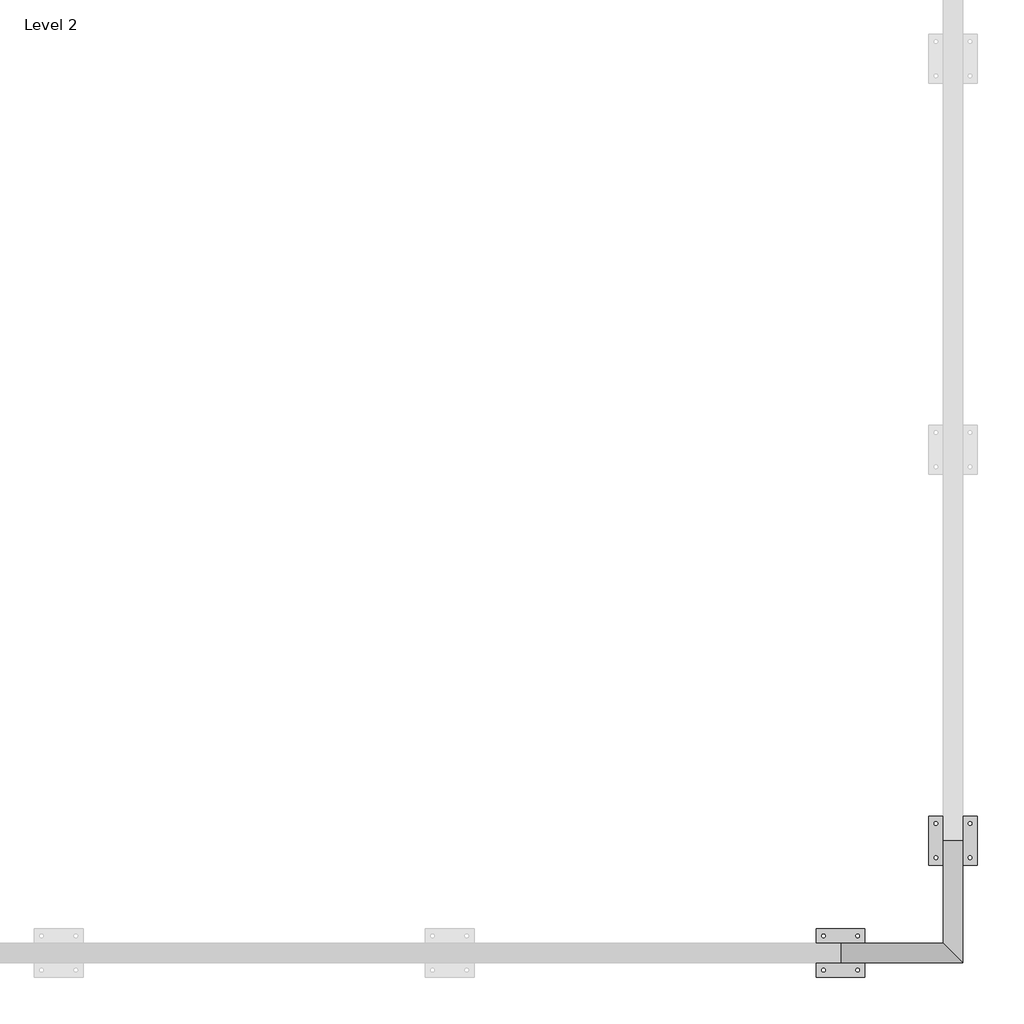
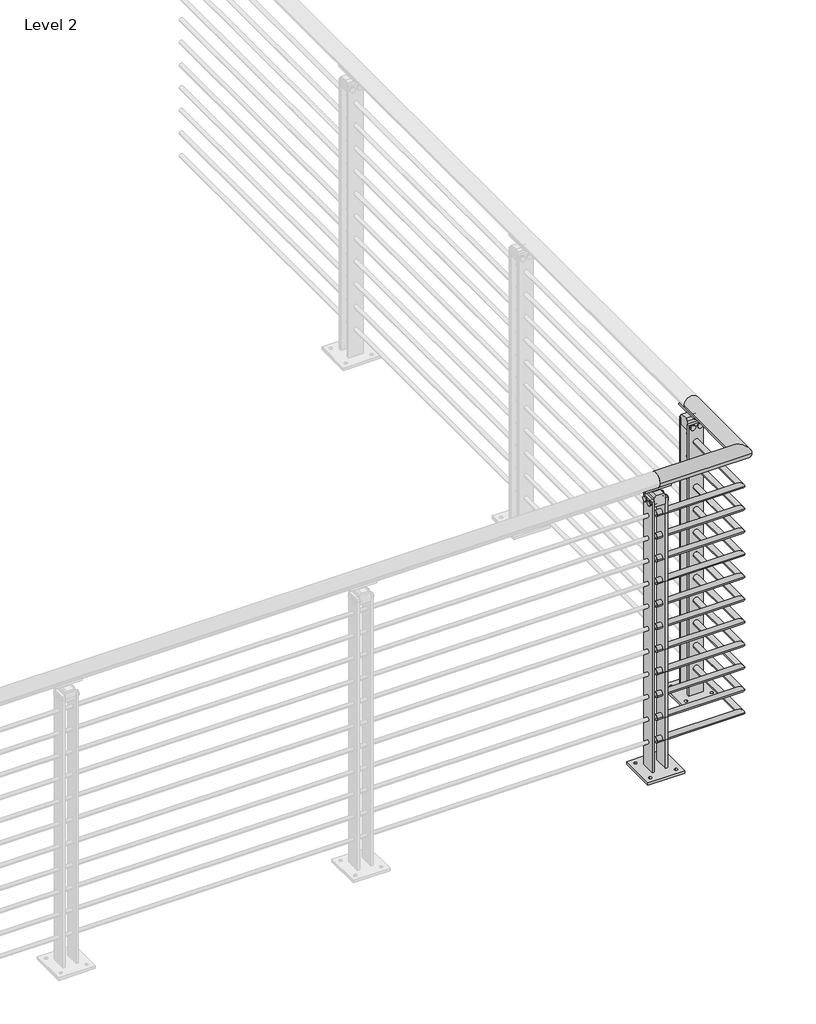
# One storey, part 11 of 31: 1 railing.
"""IFC4 building model written with IfcOpenShell, lengths in millimetres."""

from ifc_helpers import new_model, si_unit, point, frame, frame_2d, origin, place, context, project, spatial, polyline, circle_curve, ellipse_curve, trimmed, segment, composite_curve, outline, extrude, element, save
from ifc_brep_helpers import plane_surface, cylinder_surface, revolved_surface, advanced_brep

model = new_model("IFC4")

# Units and contexts
model_context = context("Model", 3, world=origin())
ifc_project = project(units=[si_unit("LENGTHUNIT", "METRE", prefix="MILLI")], contexts=[model_context])

# Site, building, storey
site = spatial("IfcSite", under=ifc_project)
building = spatial("IfcBuilding", under=site)
storey = spatial("IfcBuildingStorey", under=building, Name="Level 2", Elevation=3048.0)

# Railing
placement = place(None, origin())
element("IfcRailing", 1, ObjectType="VIVA-BLADE-Multiline-Floor Mount-Corner", at=placement, inside=storey, context=model_context, shape_type="SolidModel", body=[
    advanced_brep(
    [(20523.0072927, -69960.9426165, 4102.1), (20523.0072927, -69910.1426165, 4102.1), (20840.5072927, -69960.9426165, 4102.1), (20789.7072927, -69910.1426165, 4102.1), (20840.5072927, -69643.4426165, 4102.1), (20789.7072927, -69643.4426165, 4102.1)],
    [
        (0, 1, circle_curve(frame((20523.0072927, -69935.5426165, 4102.1), z_axis=(-1.0, 0.0, 0.0), x_axis=(0.0, 1.0, 0.0)), 25.4)),
        (1, 0, circle_curve(frame((20523.0072927, -69935.5426165, 4102.1), z_axis=(-1.0, 0.0, 0.0), x_axis=(0.0, 1.0, 0.0)), 25.4)),
        (0, 2),
        (2, 3, ellipse_curve(frame((20815.1072927, -69935.5426165, 4102.1), z_axis=(-0.7071067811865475, -0.7071067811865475, 0.0), x_axis=(-0.7071067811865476, 0.7071067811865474, 0.0)), 35.9210245, 25.4)),
        (3, 1),
        (3, 2, ellipse_curve(frame((20815.1072927, -69935.5426165, 4102.1), z_axis=(-0.7071067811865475, -0.7071067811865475, 0.0), x_axis=(-0.7071067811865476, 0.7071067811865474, 0.0)), 35.9210245, 25.4)),
        (4, 5, circle_curve(frame((20815.1072927, -69643.4426165, 4102.1), z_axis=(0.0, 1.0, 0.0), x_axis=(-1.0, 0.0, 0.0)), 25.4)),
        (5, 4, circle_curve(frame((20815.1072927, -69643.4426165, 4102.1), z_axis=(0.0, 1.0, 0.0), x_axis=(-1.0, 0.0, 0.0)), 25.4)),
        (2, 4),
        (5, 3),
    ],
    [
        plane_surface(frame((20523.0072927, -69935.5426165, 4127.5), z_axis=(-1.0, 0.0, 0.0), x_axis=(0.0, 1.0, 0.0))),
        cylinder_surface(frame((20523.0072927, -69935.5426165, 4102.1), z_axis=(-1.0, 0.0, 0.0), x_axis=(0.0, 1.0, 0.0)), 25.4),
        plane_surface(frame((20815.1072927, -69643.4426165, 4127.5), z_axis=(0.0, 1.0, 0.0), x_axis=(0.0, 0.0, 1.0))),
        cylinder_surface(frame((20815.1072927, -69935.5426165, 4102.1), z_axis=(0.0, -1.0, 0.0), x_axis=(-1.0, 0.0, 0.0)), 25.4),
    ],
    [
        (0, [[1, 2]]),
        (1, [[-1, 3, 4, 5]]),
        (1, [[-2, -5, 6, -3]]),
        (2, [[7, 8]]),
        (3, [[-4, 9, -8, 10]]),
        (3, [[-6, -10, -7, -9]]),
    ],
),
    advanced_brep(
    [(20523.0072927, -69926.0176165, 3978.275), (20523.0072927, -69945.0676165, 3978.275), (20805.5822927, -69926.0176165, 3978.275), (20824.6322927, -69945.0676165, 3978.275), (20805.5822927, -69643.4426165, 3978.275), (20824.6322927, -69643.4426165, 3978.275)],
    [
        (0, 1, circle_curve(frame((20523.0072927, -69935.5426165, 3978.275), z_axis=(-1.0, 0.0, 0.0), x_axis=(0.0, -1.0, 0.0)), 9.525)),
        (1, 0, circle_curve(frame((20523.0072927, -69935.5426165, 3978.275), z_axis=(-1.0, 0.0, 0.0), x_axis=(0.0, -1.0, 0.0)), 9.525)),
        (0, 2),
        (2, 3, ellipse_curve(frame((20815.1072927, -69935.5426165, 3978.275), z_axis=(-0.7071067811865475, -0.7071067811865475, 0.0), x_axis=(-0.7071067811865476, 0.7071067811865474, 0.0)), 13.4703842, 9.525)),
        (3, 1),
        (3, 2, ellipse_curve(frame((20815.1072927, -69935.5426165, 3978.275), z_axis=(-0.7071067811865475, -0.7071067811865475, 0.0), x_axis=(-0.7071067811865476, 0.7071067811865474, 0.0)), 13.4703842, 9.525)),
        (4, 5, circle_curve(frame((20815.1072927, -69643.4426165, 3978.275), z_axis=(0.0, 1.0, 0.0), x_axis=(1.0, 0.0, 0.0)), 9.525)),
        (5, 4, circle_curve(frame((20815.1072927, -69643.4426165, 3978.275), z_axis=(0.0, 1.0, 0.0), x_axis=(1.0, 0.0, 0.0)), 9.525)),
        (2, 4),
        (5, 3),
    ],
    [
        plane_surface(frame((20523.0072927, -69935.5426165, 3987.8), z_axis=(-1.0, 0.0, 0.0), x_axis=(0.0, 1.0, 0.0))),
        cylinder_surface(frame((20523.0072927, -69935.5426165, 3978.275), z_axis=(-1.0, 0.0, 0.0), x_axis=(0.0, -1.0, 0.0)), 9.525),
        plane_surface(frame((20815.1072927, -69643.4426165, 3987.8), z_axis=(0.0, 1.0, 0.0), x_axis=(0.0, 0.0, 1.0))),
        cylinder_surface(frame((20815.1072927, -69935.5426165, 3978.275), z_axis=(0.0, -1.0, 0.0), x_axis=(1.0, 0.0, 0.0)), 9.525),
    ],
    [
        (0, [[1, 2]]),
        (1, [[-1, 3, 4, 5]]),
        (1, [[-2, -5, 6, -3]]),
        (2, [[7, 8]]),
        (3, [[-4, 9, -8, 10]]),
        (3, [[-6, -10, -7, -9]]),
    ],
),
    advanced_brep(
    [(20523.0072927, -69926.0176165, 3895.725), (20523.0072927, -69945.0676165, 3895.725), (20805.5822927, -69926.0176165, 3895.725), (20824.6322927, -69945.0676165, 3895.725), (20805.5822927, -69643.4426165, 3895.725), (20824.6322927, -69643.4426165, 3895.725)],
    [
        (0, 1, circle_curve(frame((20523.0072927, -69935.5426165, 3895.725), z_axis=(-1.0, 0.0, 0.0), x_axis=(0.0, -1.0, 0.0)), 9.525)),
        (1, 0, circle_curve(frame((20523.0072927, -69935.5426165, 3895.725), z_axis=(-1.0, 0.0, 0.0), x_axis=(0.0, -1.0, 0.0)), 9.525)),
        (0, 2),
        (2, 3, ellipse_curve(frame((20815.1072927, -69935.5426165, 3895.725), z_axis=(-0.7071067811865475, -0.7071067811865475, 0.0), x_axis=(-0.7071067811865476, 0.7071067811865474, 0.0)), 13.4703842, 9.525)),
        (3, 1),
        (3, 2, ellipse_curve(frame((20815.1072927, -69935.5426165, 3895.725), z_axis=(-0.7071067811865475, -0.7071067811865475, 0.0), x_axis=(-0.7071067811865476, 0.7071067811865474, 0.0)), 13.4703842, 9.525)),
        (4, 5, circle_curve(frame((20815.1072927, -69643.4426165, 3895.725), z_axis=(0.0, 1.0, 0.0), x_axis=(1.0, 0.0, 0.0)), 9.525)),
        (5, 4, circle_curve(frame((20815.1072927, -69643.4426165, 3895.725), z_axis=(0.0, 1.0, 0.0), x_axis=(1.0, 0.0, 0.0)), 9.525)),
        (2, 4),
        (5, 3),
    ],
    [
        plane_surface(frame((20523.0072927, -69935.5426165, 3905.25), z_axis=(-1.0, 0.0, 0.0), x_axis=(0.0, 1.0, 0.0))),
        cylinder_surface(frame((20523.0072927, -69935.5426165, 3895.725), z_axis=(-1.0, 0.0, 0.0), x_axis=(0.0, -1.0, 0.0)), 9.525),
        plane_surface(frame((20815.1072927, -69643.4426165, 3905.25), z_axis=(0.0, 1.0, 0.0), x_axis=(0.0, 0.0, 1.0))),
        cylinder_surface(frame((20815.1072927, -69935.5426165, 3895.725), z_axis=(0.0, -1.0, 0.0), x_axis=(1.0, 0.0, 0.0)), 9.525),
    ],
    [
        (0, [[1, 2]]),
        (1, [[-1, 3, 4, 5]]),
        (1, [[-2, -5, 6, -3]]),
        (2, [[7, 8]]),
        (3, [[-4, 9, -8, 10]]),
        (3, [[-6, -10, -7, -9]]),
    ],
),
    advanced_brep(
    [(20523.0072927, -69926.0176165, 3813.175), (20523.0072927, -69945.0676165, 3813.175), (20805.5822927, -69926.0176165, 3813.175), (20824.6322927, -69945.0676165, 3813.175), (20805.5822927, -69643.4426165, 3813.175), (20824.6322927, -69643.4426165, 3813.175)],
    [
        (0, 1, circle_curve(frame((20523.0072927, -69935.5426165, 3813.175), z_axis=(-1.0, 0.0, 0.0), x_axis=(0.0, -1.0, 0.0)), 9.525)),
        (1, 0, circle_curve(frame((20523.0072927, -69935.5426165, 3813.175), z_axis=(-1.0, 0.0, 0.0), x_axis=(0.0, -1.0, 0.0)), 9.525)),
        (0, 2),
        (2, 3, ellipse_curve(frame((20815.1072927, -69935.5426165, 3813.175), z_axis=(-0.7071067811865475, -0.7071067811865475, 0.0), x_axis=(-0.7071067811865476, 0.7071067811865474, 0.0)), 13.4703842, 9.525)),
        (3, 1),
        (3, 2, ellipse_curve(frame((20815.1072927, -69935.5426165, 3813.175), z_axis=(-0.7071067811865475, -0.7071067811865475, 0.0), x_axis=(-0.7071067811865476, 0.7071067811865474, 0.0)), 13.4703842, 9.525)),
        (4, 5, circle_curve(frame((20815.1072927, -69643.4426165, 3813.175), z_axis=(0.0, 1.0, 0.0), x_axis=(1.0, 0.0, 0.0)), 9.525)),
        (5, 4, circle_curve(frame((20815.1072927, -69643.4426165, 3813.175), z_axis=(0.0, 1.0, 0.0), x_axis=(1.0, 0.0, 0.0)), 9.525)),
        (2, 4),
        (5, 3),
    ],
    [
        plane_surface(frame((20523.0072927, -69935.5426165, 3822.7), z_axis=(-1.0, 0.0, 0.0), x_axis=(0.0, 1.0, 0.0))),
        cylinder_surface(frame((20523.0072927, -69935.5426165, 3813.175), z_axis=(-1.0, 0.0, 0.0), x_axis=(0.0, -1.0, 0.0)), 9.525),
        plane_surface(frame((20815.1072927, -69643.4426165, 3822.7), z_axis=(0.0, 1.0, 0.0), x_axis=(0.0, 0.0, 1.0))),
        cylinder_surface(frame((20815.1072927, -69935.5426165, 3813.175), z_axis=(0.0, -1.0, 0.0), x_axis=(1.0, 0.0, 0.0)), 9.525),
    ],
    [
        (0, [[1, 2]]),
        (1, [[-1, 3, 4, 5]]),
        (1, [[-2, -5, 6, -3]]),
        (2, [[7, 8]]),
        (3, [[-4, 9, -8, 10]]),
        (3, [[-6, -10, -7, -9]]),
    ],
),
    advanced_brep(
    [(20523.0072927, -69926.0176165, 3730.625), (20523.0072927, -69945.0676165, 3730.625), (20805.5822927, -69926.0176165, 3730.625), (20824.6322927, -69945.0676165, 3730.625), (20805.5822927, -69643.4426165, 3730.625), (20824.6322927, -69643.4426165, 3730.625)],
    [
        (0, 1, circle_curve(frame((20523.0072927, -69935.5426165, 3730.625), z_axis=(-1.0, 0.0, 0.0), x_axis=(0.0, -1.0, 0.0)), 9.525)),
        (1, 0, circle_curve(frame((20523.0072927, -69935.5426165, 3730.625), z_axis=(-1.0, 0.0, 0.0), x_axis=(0.0, -1.0, 0.0)), 9.525)),
        (0, 2),
        (2, 3, ellipse_curve(frame((20815.1072927, -69935.5426165, 3730.625), z_axis=(-0.7071067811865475, -0.7071067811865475, 0.0), x_axis=(-0.7071067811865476, 0.7071067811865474, 0.0)), 13.4703842, 9.525)),
        (3, 1),
        (3, 2, ellipse_curve(frame((20815.1072927, -69935.5426165, 3730.625), z_axis=(-0.7071067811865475, -0.7071067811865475, 0.0), x_axis=(-0.7071067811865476, 0.7071067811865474, 0.0)), 13.4703842, 9.525)),
        (4, 5, circle_curve(frame((20815.1072927, -69643.4426165, 3730.625), z_axis=(0.0, 1.0, 0.0), x_axis=(1.0, 0.0, 0.0)), 9.525)),
        (5, 4, circle_curve(frame((20815.1072927, -69643.4426165, 3730.625), z_axis=(0.0, 1.0, 0.0), x_axis=(1.0, 0.0, 0.0)), 9.525)),
        (2, 4),
        (5, 3),
    ],
    [
        plane_surface(frame((20523.0072927, -69935.5426165, 3740.15), z_axis=(-1.0, 0.0, 0.0), x_axis=(0.0, 1.0, 0.0))),
        cylinder_surface(frame((20523.0072927, -69935.5426165, 3730.625), z_axis=(-1.0, 0.0, 0.0), x_axis=(0.0, -1.0, 0.0)), 9.525),
        plane_surface(frame((20815.1072927, -69643.4426165, 3740.15), z_axis=(0.0, 1.0, 0.0), x_axis=(0.0, 0.0, 1.0))),
        cylinder_surface(frame((20815.1072927, -69935.5426165, 3730.625), z_axis=(0.0, -1.0, 0.0), x_axis=(1.0, 0.0, 0.0)), 9.525),
    ],
    [
        (0, [[1, 2]]),
        (1, [[-1, 3, 4, 5]]),
        (1, [[-2, -5, 6, -3]]),
        (2, [[7, 8]]),
        (3, [[-4, 9, -8, 10]]),
        (3, [[-6, -10, -7, -9]]),
    ],
),
    advanced_brep(
    [(20523.0072927, -69926.0176165, 3648.075), (20523.0072927, -69945.0676165, 3648.075), (20805.5822927, -69926.0176165, 3648.075), (20824.6322927, -69945.0676165, 3648.075), (20805.5822927, -69643.4426165, 3648.075), (20824.6322927, -69643.4426165, 3648.075)],
    [
        (0, 1, circle_curve(frame((20523.0072927, -69935.5426165, 3648.075), z_axis=(-1.0, 0.0, 0.0), x_axis=(0.0, -1.0, 0.0)), 9.525)),
        (1, 0, circle_curve(frame((20523.0072927, -69935.5426165, 3648.075), z_axis=(-1.0, 0.0, 0.0), x_axis=(0.0, -1.0, 0.0)), 9.525)),
        (0, 2),
        (2, 3, ellipse_curve(frame((20815.1072927, -69935.5426165, 3648.075), z_axis=(-0.7071067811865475, -0.7071067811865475, 0.0), x_axis=(-0.7071067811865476, 0.7071067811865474, 0.0)), 13.4703842, 9.525)),
        (3, 1),
        (3, 2, ellipse_curve(frame((20815.1072927, -69935.5426165, 3648.075), z_axis=(-0.7071067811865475, -0.7071067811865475, 0.0), x_axis=(-0.7071067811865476, 0.7071067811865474, 0.0)), 13.4703842, 9.525)),
        (4, 5, circle_curve(frame((20815.1072927, -69643.4426165, 3648.075), z_axis=(0.0, 1.0, 0.0), x_axis=(1.0, 0.0, 0.0)), 9.525)),
        (5, 4, circle_curve(frame((20815.1072927, -69643.4426165, 3648.075), z_axis=(0.0, 1.0, 0.0), x_axis=(1.0, 0.0, 0.0)), 9.525)),
        (2, 4),
        (5, 3),
    ],
    [
        plane_surface(frame((20523.0072927, -69935.5426165, 3657.6), z_axis=(-1.0, 0.0, 0.0), x_axis=(0.0, 1.0, 0.0))),
        cylinder_surface(frame((20523.0072927, -69935.5426165, 3648.075), z_axis=(-1.0, 0.0, 0.0), x_axis=(0.0, -1.0, 0.0)), 9.525),
        plane_surface(frame((20815.1072927, -69643.4426165, 3657.6), z_axis=(0.0, 1.0, 0.0), x_axis=(0.0, 0.0, 1.0))),
        cylinder_surface(frame((20815.1072927, -69935.5426165, 3648.075), z_axis=(0.0, -1.0, 0.0), x_axis=(1.0, 0.0, 0.0)), 9.525),
    ],
    [
        (0, [[1, 2]]),
        (1, [[-1, 3, 4, 5]]),
        (1, [[-2, -5, 6, -3]]),
        (2, [[7, 8]]),
        (3, [[-4, 9, -8, 10]]),
        (3, [[-6, -10, -7, -9]]),
    ],
),
    advanced_brep(
    [(20523.0072927, -69926.0176165, 3565.525), (20523.0072927, -69945.0676165, 3565.525), (20805.5822927, -69926.0176165, 3565.525), (20824.6322927, -69945.0676165, 3565.525), (20805.5822927, -69643.4426165, 3565.525), (20824.6322927, -69643.4426165, 3565.525)],
    [
        (0, 1, circle_curve(frame((20523.0072927, -69935.5426165, 3565.525), z_axis=(-1.0, 0.0, 0.0), x_axis=(0.0, -1.0, 0.0)), 9.525)),
        (1, 0, circle_curve(frame((20523.0072927, -69935.5426165, 3565.525), z_axis=(-1.0, 0.0, 0.0), x_axis=(0.0, -1.0, 0.0)), 9.525)),
        (0, 2),
        (2, 3, ellipse_curve(frame((20815.1072927, -69935.5426165, 3565.525), z_axis=(-0.7071067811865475, -0.7071067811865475, 0.0), x_axis=(-0.7071067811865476, 0.7071067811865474, 0.0)), 13.4703842, 9.525)),
        (3, 1),
        (3, 2, ellipse_curve(frame((20815.1072927, -69935.5426165, 3565.525), z_axis=(-0.7071067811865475, -0.7071067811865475, 0.0), x_axis=(-0.7071067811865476, 0.7071067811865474, 0.0)), 13.4703842, 9.525)),
        (4, 5, circle_curve(frame((20815.1072927, -69643.4426165, 3565.525), z_axis=(0.0, 1.0, 0.0), x_axis=(1.0, 0.0, 0.0)), 9.525)),
        (5, 4, circle_curve(frame((20815.1072927, -69643.4426165, 3565.525), z_axis=(0.0, 1.0, 0.0), x_axis=(1.0, 0.0, 0.0)), 9.525)),
        (2, 4),
        (5, 3),
    ],
    [
        plane_surface(frame((20523.0072927, -69935.5426165, 3575.05), z_axis=(-1.0, 0.0, 0.0), x_axis=(0.0, 1.0, 0.0))),
        cylinder_surface(frame((20523.0072927, -69935.5426165, 3565.525), z_axis=(-1.0, 0.0, 0.0), x_axis=(0.0, -1.0, 0.0)), 9.525),
        plane_surface(frame((20815.1072927, -69643.4426165, 3575.05), z_axis=(0.0, 1.0, 0.0), x_axis=(0.0, 0.0, 1.0))),
        cylinder_surface(frame((20815.1072927, -69935.5426165, 3565.525), z_axis=(0.0, -1.0, 0.0), x_axis=(1.0, 0.0, 0.0)), 9.525),
    ],
    [
        (0, [[1, 2]]),
        (1, [[-1, 3, 4, 5]]),
        (1, [[-2, -5, 6, -3]]),
        (2, [[7, 8]]),
        (3, [[-4, 9, -8, 10]]),
        (3, [[-6, -10, -7, -9]]),
    ],
),
    advanced_brep(
    [(20523.0072927, -69926.0176165, 3482.975), (20523.0072927, -69945.0676165, 3482.975), (20805.5822927, -69926.0176165, 3482.975), (20824.6322927, -69945.0676165, 3482.975), (20805.5822927, -69643.4426165, 3482.975), (20824.6322927, -69643.4426165, 3482.975)],
    [
        (0, 1, circle_curve(frame((20523.0072927, -69935.5426165, 3482.975), z_axis=(-1.0, 0.0, 0.0), x_axis=(0.0, -1.0, 0.0)), 9.525)),
        (1, 0, circle_curve(frame((20523.0072927, -69935.5426165, 3482.975), z_axis=(-1.0, 0.0, 0.0), x_axis=(0.0, -1.0, 0.0)), 9.525)),
        (0, 2),
        (2, 3, ellipse_curve(frame((20815.1072927, -69935.5426165, 3482.975), z_axis=(-0.7071067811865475, -0.7071067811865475, 0.0), x_axis=(-0.7071067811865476, 0.7071067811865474, 0.0)), 13.4703842, 9.525)),
        (3, 1),
        (3, 2, ellipse_curve(frame((20815.1072927, -69935.5426165, 3482.975), z_axis=(-0.7071067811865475, -0.7071067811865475, 0.0), x_axis=(-0.7071067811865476, 0.7071067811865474, 0.0)), 13.4703842, 9.525)),
        (4, 5, circle_curve(frame((20815.1072927, -69643.4426165, 3482.975), z_axis=(0.0, 1.0, 0.0), x_axis=(1.0, 0.0, 0.0)), 9.525)),
        (5, 4, circle_curve(frame((20815.1072927, -69643.4426165, 3482.975), z_axis=(0.0, 1.0, 0.0), x_axis=(1.0, 0.0, 0.0)), 9.525)),
        (2, 4),
        (5, 3),
    ],
    [
        plane_surface(frame((20523.0072927, -69935.5426165, 3492.5), z_axis=(-1.0, 0.0, 0.0), x_axis=(0.0, 1.0, 0.0))),
        cylinder_surface(frame((20523.0072927, -69935.5426165, 3482.975), z_axis=(-1.0, 0.0, 0.0), x_axis=(0.0, -1.0, 0.0)), 9.525),
        plane_surface(frame((20815.1072927, -69643.4426165, 3492.5), z_axis=(0.0, 1.0, 0.0), x_axis=(0.0, 0.0, 1.0))),
        cylinder_surface(frame((20815.1072927, -69935.5426165, 3482.975), z_axis=(0.0, -1.0, 0.0), x_axis=(1.0, 0.0, 0.0)), 9.525),
    ],
    [
        (0, [[1, 2]]),
        (1, [[-1, 3, 4, 5]]),
        (1, [[-2, -5, 6, -3]]),
        (2, [[7, 8]]),
        (3, [[-4, 9, -8, 10]]),
        (3, [[-6, -10, -7, -9]]),
    ],
),
    advanced_brep(
    [(20523.0072927, -69926.0176165, 3400.425), (20523.0072927, -69945.0676165, 3400.425), (20805.5822927, -69926.0176165, 3400.425), (20824.6322927, -69945.0676165, 3400.425), (20805.5822927, -69643.4426165, 3400.425), (20824.6322927, -69643.4426165, 3400.425)],
    [
        (0, 1, circle_curve(frame((20523.0072927, -69935.5426165, 3400.425), z_axis=(-1.0, 0.0, 0.0), x_axis=(0.0, -1.0, 0.0)), 9.525)),
        (1, 0, circle_curve(frame((20523.0072927, -69935.5426165, 3400.425), z_axis=(-1.0, 0.0, 0.0), x_axis=(0.0, -1.0, 0.0)), 9.525)),
        (0, 2),
        (2, 3, ellipse_curve(frame((20815.1072927, -69935.5426165, 3400.425), z_axis=(-0.7071067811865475, -0.7071067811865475, 0.0), x_axis=(-0.7071067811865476, 0.7071067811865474, 0.0)), 13.4703842, 9.525)),
        (3, 1),
        (3, 2, ellipse_curve(frame((20815.1072927, -69935.5426165, 3400.425), z_axis=(-0.7071067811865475, -0.7071067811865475, 0.0), x_axis=(-0.7071067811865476, 0.7071067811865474, 0.0)), 13.4703842, 9.525)),
        (4, 5, circle_curve(frame((20815.1072927, -69643.4426165, 3400.425), z_axis=(0.0, 1.0, 0.0), x_axis=(1.0, 0.0, 0.0)), 9.525)),
        (5, 4, circle_curve(frame((20815.1072927, -69643.4426165, 3400.425), z_axis=(0.0, 1.0, 0.0), x_axis=(1.0, 0.0, 0.0)), 9.525)),
        (2, 4),
        (5, 3),
    ],
    [
        plane_surface(frame((20523.0072927, -69935.5426165, 3409.95), z_axis=(-1.0, 0.0, 0.0), x_axis=(0.0, 1.0, 0.0))),
        cylinder_surface(frame((20523.0072927, -69935.5426165, 3400.425), z_axis=(-1.0, 0.0, 0.0), x_axis=(0.0, -1.0, 0.0)), 9.525),
        plane_surface(frame((20815.1072927, -69643.4426165, 3409.95), z_axis=(0.0, 1.0, 0.0), x_axis=(0.0, 0.0, 1.0))),
        cylinder_surface(frame((20815.1072927, -69935.5426165, 3400.425), z_axis=(0.0, -1.0, 0.0), x_axis=(1.0, 0.0, 0.0)), 9.525),
    ],
    [
        (0, [[1, 2]]),
        (1, [[-1, 3, 4, 5]]),
        (1, [[-2, -5, 6, -3]]),
        (2, [[7, 8]]),
        (3, [[-4, 9, -8, 10]]),
        (3, [[-6, -10, -7, -9]]),
    ],
),
    advanced_brep(
    [(20523.0072927, -69926.0176165, 3317.875), (20523.0072927, -69945.0676165, 3317.875), (20805.5822927, -69926.0176165, 3317.875), (20824.6322927, -69945.0676165, 3317.875), (20805.5822927, -69643.4426165, 3317.875), (20824.6322927, -69643.4426165, 3317.875)],
    [
        (0, 1, circle_curve(frame((20523.0072927, -69935.5426165, 3317.875), z_axis=(-1.0, 0.0, 0.0), x_axis=(0.0, -1.0, 0.0)), 9.525)),
        (1, 0, circle_curve(frame((20523.0072927, -69935.5426165, 3317.875), z_axis=(-1.0, 0.0, 0.0), x_axis=(0.0, -1.0, 0.0)), 9.525)),
        (0, 2),
        (2, 3, ellipse_curve(frame((20815.1072927, -69935.5426165, 3317.875), z_axis=(-0.7071067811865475, -0.7071067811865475, 0.0), x_axis=(-0.7071067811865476, 0.7071067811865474, 0.0)), 13.4703842, 9.525)),
        (3, 1),
        (3, 2, ellipse_curve(frame((20815.1072927, -69935.5426165, 3317.875), z_axis=(-0.7071067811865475, -0.7071067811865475, 0.0), x_axis=(-0.7071067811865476, 0.7071067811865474, 0.0)), 13.4703842, 9.525)),
        (4, 5, circle_curve(frame((20815.1072927, -69643.4426165, 3317.875), z_axis=(0.0, 1.0, 0.0), x_axis=(1.0, 0.0, 0.0)), 9.525)),
        (5, 4, circle_curve(frame((20815.1072927, -69643.4426165, 3317.875), z_axis=(0.0, 1.0, 0.0), x_axis=(1.0, 0.0, 0.0)), 9.525)),
        (2, 4),
        (5, 3),
    ],
    [
        plane_surface(frame((20523.0072927, -69935.5426165, 3327.4), z_axis=(-1.0, 0.0, 0.0), x_axis=(0.0, 1.0, 0.0))),
        cylinder_surface(frame((20523.0072927, -69935.5426165, 3317.875), z_axis=(-1.0, 0.0, 0.0), x_axis=(0.0, -1.0, 0.0)), 9.525),
        plane_surface(frame((20815.1072927, -69643.4426165, 3327.4), z_axis=(0.0, 1.0, 0.0), x_axis=(0.0, 0.0, 1.0))),
        cylinder_surface(frame((20815.1072927, -69935.5426165, 3317.875), z_axis=(0.0, -1.0, 0.0), x_axis=(1.0, 0.0, 0.0)), 9.525),
    ],
    [
        (0, [[1, 2]]),
        (1, [[-1, 3, 4, 5]]),
        (1, [[-2, -5, 6, -3]]),
        (2, [[7, 8]]),
        (3, [[-4, 9, -8, 10]]),
        (3, [[-6, -10, -7, -9]]),
    ],
),
    advanced_brep(
    [(20523.0072927, -69926.0176165, 3235.325), (20523.0072927, -69945.0676165, 3235.325), (20805.5822927, -69926.0176165, 3235.325), (20824.6322927, -69945.0676165, 3235.325), (20805.5822927, -69643.4426165, 3235.325), (20824.6322927, -69643.4426165, 3235.325)],
    [
        (0, 1, circle_curve(frame((20523.0072927, -69935.5426165, 3235.325), z_axis=(-1.0, 0.0, 0.0), x_axis=(0.0, -1.0, 0.0)), 9.525)),
        (1, 0, circle_curve(frame((20523.0072927, -69935.5426165, 3235.325), z_axis=(-1.0, 0.0, 0.0), x_axis=(0.0, -1.0, 0.0)), 9.525)),
        (0, 2),
        (2, 3, ellipse_curve(frame((20815.1072927, -69935.5426165, 3235.325), z_axis=(-0.7071067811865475, -0.7071067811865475, 0.0), x_axis=(-0.7071067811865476, 0.7071067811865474, 0.0)), 13.4703842, 9.525)),
        (3, 1),
        (3, 2, ellipse_curve(frame((20815.1072927, -69935.5426165, 3235.325), z_axis=(-0.7071067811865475, -0.7071067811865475, 0.0), x_axis=(-0.7071067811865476, 0.7071067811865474, 0.0)), 13.4703842, 9.525)),
        (4, 5, circle_curve(frame((20815.1072927, -69643.4426165, 3235.325), z_axis=(0.0, 1.0, 0.0), x_axis=(1.0, 0.0, 0.0)), 9.525)),
        (5, 4, circle_curve(frame((20815.1072927, -69643.4426165, 3235.325), z_axis=(0.0, 1.0, 0.0), x_axis=(1.0, 0.0, 0.0)), 9.525)),
        (2, 4),
        (5, 3),
    ],
    [
        plane_surface(frame((20523.0072927, -69935.5426165, 3244.85), z_axis=(-1.0, 0.0, 0.0), x_axis=(0.0, 1.0, 0.0))),
        cylinder_surface(frame((20523.0072927, -69935.5426165, 3235.325), z_axis=(-1.0, 0.0, 0.0), x_axis=(0.0, -1.0, 0.0)), 9.525),
        plane_surface(frame((20815.1072927, -69643.4426165, 3244.85), z_axis=(0.0, 1.0, 0.0), x_axis=(0.0, 0.0, 1.0))),
        cylinder_surface(frame((20815.1072927, -69935.5426165, 3235.325), z_axis=(0.0, -1.0, 0.0), x_axis=(1.0, 0.0, 0.0)), 9.525),
    ],
    [
        (0, [[1, 2]]),
        (1, [[-1, 3, 4, 5]]),
        (1, [[-2, -5, 6, -3]]),
        (2, [[7, 8]]),
        (3, [[-4, 9, -8, 10]]),
        (3, [[-6, -10, -7, -9]]),
    ],
),
    advanced_brep(
    [(20523.0072927, -69926.0176165, 3152.775), (20523.0072927, -69945.0676165, 3152.775), (20805.5822927, -69926.0176165, 3152.775), (20824.6322927, -69945.0676165, 3152.775), (20805.5822927, -69643.4426165, 3152.775), (20824.6322927, -69643.4426165, 3152.775)],
    [
        (0, 1, circle_curve(frame((20523.0072927, -69935.5426165, 3152.775), z_axis=(-1.0, 0.0, 0.0), x_axis=(0.0, -1.0, 0.0)), 9.525)),
        (1, 0, circle_curve(frame((20523.0072927, -69935.5426165, 3152.775), z_axis=(-1.0, 0.0, 0.0), x_axis=(0.0, -1.0, 0.0)), 9.525)),
        (0, 2),
        (2, 3, ellipse_curve(frame((20815.1072927, -69935.5426165, 3152.775), z_axis=(-0.7071067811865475, -0.7071067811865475, 0.0), x_axis=(-0.7071067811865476, 0.7071067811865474, 0.0)), 13.4703842, 9.525)),
        (3, 1),
        (3, 2, ellipse_curve(frame((20815.1072927, -69935.5426165, 3152.775), z_axis=(-0.7071067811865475, -0.7071067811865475, 0.0), x_axis=(-0.7071067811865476, 0.7071067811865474, 0.0)), 13.4703842, 9.525)),
        (4, 5, circle_curve(frame((20815.1072927, -69643.4426165, 3152.775), z_axis=(0.0, 1.0, 0.0), x_axis=(1.0, 0.0, 0.0)), 9.525)),
        (5, 4, circle_curve(frame((20815.1072927, -69643.4426165, 3152.775), z_axis=(0.0, 1.0, 0.0), x_axis=(1.0, 0.0, 0.0)), 9.525)),
        (2, 4),
        (5, 3),
    ],
    [
        plane_surface(frame((20523.0072927, -69935.5426165, 3162.3), z_axis=(-1.0, 0.0, 0.0), x_axis=(0.0, 1.0, 0.0))),
        cylinder_surface(frame((20523.0072927, -69935.5426165, 3152.775), z_axis=(-1.0, 0.0, 0.0), x_axis=(0.0, -1.0, 0.0)), 9.525),
        plane_surface(frame((20815.1072927, -69643.4426165, 3162.3), z_axis=(0.0, 1.0, 0.0), x_axis=(0.0, 0.0, 1.0))),
        cylinder_surface(frame((20815.1072927, -69935.5426165, 3152.775), z_axis=(0.0, -1.0, 0.0), x_axis=(1.0, 0.0, 0.0)), 9.525),
    ],
    [
        (0, [[1, 2]]),
        (1, [[-1, 3, 4, 5]]),
        (1, [[-2, -5, 6, -3]]),
        (2, [[7, 8]]),
        (3, [[-4, 9, -8, 10]]),
        (3, [[-6, -10, -7, -9]]),
    ],
),
    advanced_brep(
    [(20802.3471691, -69598.2052165, 4080.0967655), (20827.2192336, -69598.2052165, 4079.9535285), (20830.0281639, -69598.2052165, 4075.1267745), (20798.5112716, -69598.2052165, 4075.707533), (20802.3471691, -69688.6800165, 4080.0967655), (20798.5112716, -69688.6800165, 4075.707533), (20830.1419573, -69688.6800165, 4075.1893964), (20827.3062057, -69688.6800165, 4080.0018447)],
    [
        (0, 1, circle_curve(frame((20814.9109719, -69598.2052165, 4102.2115898), z_axis=(0.0, -1.0, 0.0), x_axis=(-1.0, 0.0, 0.0)), 25.4345159)),
        (1, 2, circle_curve(frame((20828.5508588, -69598.2052165, 4077.4993599), z_axis=(0.0, 1.0, 0.0), x_axis=(-1.0, 0.0, 0.0)), 2.7949225)),
        (2, 3, circle_curve(frame((20814.7775089, -69598.2052165, 4102.9742164), z_axis=(0.0, 1.0, 0.0), x_axis=(-1.0, 0.0, 0.0)), 31.75)),
        (3, 0, circle_curve(frame((20800.7996114, -69598.2052165, 4077.5784521), z_axis=(0.0, 1.0, 0.0), x_axis=(-1.0, 0.0, 0.0)), 2.9558141)),
        (4, 5, circle_curve(frame((20800.7996114, -69688.6800165, 4077.5784521), z_axis=(0.0, -1.0, 0.0), x_axis=(-1.0, 0.0, 0.0)), 2.9558141)),
        (5, 6, circle_curve(frame((20814.7775089, -69688.6800165, 4102.9742164), z_axis=(0.0, -1.0, 0.0), x_axis=(-1.0, 0.0, 0.0)), 31.75)),
        (6, 7, circle_curve(frame((20828.5508588, -69688.6800165, 4077.4993599), z_axis=(0.0, -1.0, 0.0), x_axis=(-1.0, 0.0, 0.0)), 2.7949225)),
        (7, 4, circle_curve(frame((20814.9109719, -69688.6800165, 4102.2115898), z_axis=(0.0, 1.0, 0.0), x_axis=(-1.0, 0.0, 0.0)), 25.4345159)),
        (0, 4),
        (7, 1),
        (6, 2),
        (5, 3),
    ],
    [
        plane_surface(frame((20789.4764561, -69598.2052165, 4102.2115898), z_axis=(0.0, 1.0, 0.0), x_axis=(0.0, 0.0, -1.0))),
        plane_surface(frame((20789.4764561, -69688.6800165, 4102.2115898), z_axis=(0.0, -1.0, 0.0), x_axis=(0.0, 0.0, 1.0))),
        revolved_surface(polyline([(20789.476456, -69688.6800165, 4102.2115898), (20789.476456, -69598.2052165, 4102.2115898)]), (20814.9109719, -69688.6800165, 4102.2115898), (0.0, -1.0, 0.0)),
        cylinder_surface(frame((20828.5508588, -69688.6800165, 4077.4993599), z_axis=(0.0, 1.0, 0.0), x_axis=(-1.0, 0.0, 0.0)), 2.7949225),
        cylinder_surface(frame((20814.7775089, -69688.6800165, 4102.9742164), z_axis=(0.0, 1.0, 0.0), x_axis=(-1.0, 0.0, 0.0)), 31.75),
        cylinder_surface(frame((20800.7996114, -69688.6800165, 4077.5784521), z_axis=(0.0, 1.0, 0.0), x_axis=(-1.0, 0.0, 0.0)), 2.9558141),
    ],
    [
        (0, [[1, 2, 3, 4]]),
        (1, [[5, 6, 7, 8]]),
        (2, [[-1, 9, -8, 10]]),
        (3, [[-2, -10, -7, 11]]),
        (4, [[-3, -11, -6, 12]]),
        (5, [[-4, -12, -5, -9]]),
    ],
),
    extrude(outline(composite_curve([segment(polyline([(-69630.7426165, 4062.4125), (-69656.1426165, 4062.4125)]), True, "CONTINUOUS"), segment(trimmed(circle_curve(frame_2d((-69670.5105314, 4062.4125)), 14.3679149), [point((-69656.1426165, 4062.4125))], [point((-69670.5105314, 4076.7804149))], True, "CARTESIAN"), True, "CONTINUOUS"), segment(polyline([(-69670.5105314, 4076.7804149), (-69616.3747017, 4076.7804149)]), True, "CONTINUOUS"), segment(trimmed(circle_curve(frame_2d((-69616.3747017, 4062.4125)), 14.3679149), [point((-69616.3747017, 4076.7804149))], [point((-69630.7426165, 4062.4125))], True, "CARTESIAN"), True, "CONTINUOUS")], self_intersect=False)), frame((20812.5672927, 0.0, 0.0), z_axis=(1.0, 0.0, 0.0), x_axis=(0.0, 1.0, 0.0)), (0.0, 0.0, 1.0), 5.08),
    extrude(outline(polyline([(20878.6060986, -69579.9545534), (20878.6060986, -69706.9545534), (20751.6084868, -69706.9545534), (20751.6084868, -69579.9545534), (20878.6060986, -69579.9545534)]), holes=[composite_curve([segment(trimmed(circle_curve(frame_2d((20859.5560986, -69687.9045534)), 4.7625), [point((20864.3185986, -69687.9045534))], [point((20854.7935986, -69687.9045534))], True, "CARTESIAN"), True, "CONTINUOUS"), segment(trimmed(circle_curve(frame_2d((20859.5560986, -69687.9045534)), 4.7625), [point((20854.7935986, -69687.9045534))], [point((20864.3185986, -69687.9045534))], True, "CARTESIAN"), True, "CONTINUOUS")], self_intersect=False), composite_curve([segment(trimmed(circle_curve(frame_2d((20770.6584868, -69687.9045534)), 4.7625), [point((20775.4209868, -69687.9045534))], [point((20765.8959868, -69687.9045534))], True, "CARTESIAN"), True, "CONTINUOUS"), segment(trimmed(circle_curve(frame_2d((20770.6584868, -69687.9045534)), 4.7625), [point((20765.8959868, -69687.9045534))], [point((20775.4209868, -69687.9045534))], True, "CARTESIAN"), True, "CONTINUOUS")], self_intersect=False), composite_curve([segment(trimmed(circle_curve(frame_2d((20770.6584868, -69599.0045534)), 4.7625), [point((20775.4209868, -69599.0045534))], [point((20765.8959868, -69599.0045534))], True, "CARTESIAN"), True, "CONTINUOUS"), segment(trimmed(circle_curve(frame_2d((20770.6584868, -69599.0045534)), 4.7625), [point((20765.8959868, -69599.0045534))], [point((20775.4209868, -69599.0045534))], True, "CARTESIAN"), True, "CONTINUOUS")], self_intersect=False), composite_curve([segment(trimmed(circle_curve(frame_2d((20859.5560986, -69599.0045534)), 4.7625), [point((20864.3185986, -69599.0045534))], [point((20854.7935986, -69599.0045534))], True, "CARTESIAN"), True, "CONTINUOUS"), segment(trimmed(circle_curve(frame_2d((20859.5560986, -69599.0045534)), 4.7625), [point((20854.7935986, -69599.0045534))], [point((20864.3185986, -69599.0045534))], True, "CARTESIAN"), True, "CONTINUOUS")], self_intersect=False)]), frame((0.0, 0.0, 3048.0), z_axis=(0.0, 0.0, 1.0), x_axis=(1.0, 0.0, 0.0)), (0.0, 0.0, 1.0), 9.525),
    extrude(outline(polyline([(20789.707496, -69670.5174522), (20789.707496, -69662.4926165), (20840.5098206, -69662.4926165), (20840.5098206, -69670.5174522), (20789.707496, -69670.5174522)])), frame((0.0, 0.0, 3048.0), z_axis=(0.0, 0.0, 1.0), x_axis=(1.0, 0.0, 0.0)), (0.0, 0.0, 1.0), 996.95),
    extrude(outline(composite_curve([segment(trimmed(circle_curve(frame_2d((4034.0416929, 20827.8097696)), 8.89), [point((4034.0416929, 20836.6997696))], [point((4034.0416929, 20818.9197696))], False, "CARTESIAN"), True, "CONTINUOUS"), segment(trimmed(circle_curve(frame_2d((4034.0416929, 20827.8097696)), 8.89), [point((4034.0416929, 20818.9197696))], [point((4034.0416929, 20836.6997696))], False, "CARTESIAN"), True, "CONTINUOUS")], self_intersect=False)), frame((0.0, -69675.1926165, 0.0), z_axis=(0.0, 1.0, 0.0), x_axis=(0.0, 0.0, 1.0)), (0.0, 0.0, 1.0), 63.4880631),
    extrude(outline(composite_curve([segment(trimmed(circle_curve(frame_2d((4034.0416929, 20802.4098716)), 8.89), [point((4034.0416929, 20811.2998716))], [point((4034.0416929, 20793.5198716))], False, "CARTESIAN"), True, "CONTINUOUS"), segment(trimmed(circle_curve(frame_2d((4034.0416929, 20802.4098716)), 8.89), [point((4034.0416929, 20793.5198716))], [point((4034.0416929, 20811.2998716))], False, "CARTESIAN"), True, "CONTINUOUS")], self_intersect=False)), frame((0.0, -69675.1926165, 0.0), z_axis=(0.0, 1.0, 0.0), x_axis=(0.0, 0.0, 1.0)), (0.0, 0.0, 1.0), 63.4880631),
    extrude(outline(polyline([(-69662.4926165, 4022.7123), (-69662.4926165, 4056.0625), (-69656.1426165, 4062.4125), (-69630.7426165, 4062.4125), (-69624.3926165, 4056.0625), (-69624.3926165, 4022.7123), (-69662.4926165, 4022.7123)])), frame((20789.7072927, 0.0, 0.0), z_axis=(1.0, 0.0, 0.0), x_axis=(0.0, 1.0, 0.0)), (0.0, 0.0, 1.0), 50.8025279),
    extrude(outline(polyline([(20789.707496, -69624.3926546), (20789.707496, -69616.3916546), (20840.5098206, -69616.3916546), (20840.5098206, -69624.3926546), (20789.707496, -69624.3926546)])), frame((0.0, 0.0, 3048.0), z_axis=(0.0, 0.0, 1.0), x_axis=(1.0, 0.0, 0.0)), (0.0, 0.0, 1.0), 996.95),
    advanced_brep(
    [(20568.2446927, -69922.7824929, 4080.0967655), (20568.2446927, -69947.6545574, 4079.9535285), (20568.2446927, -69950.4634877, 4075.1267745), (20568.2446927, -69918.9465955, 4075.707533), (20477.7698927, -69922.7824929, 4080.0967655), (20477.7698927, -69918.9465955, 4075.707533), (20477.7698927, -69950.5772811, 4075.1893964), (20477.7698927, -69947.7415296, 4080.0018447)],
    [
        (0, 1, circle_curve(frame((20568.2446927, -69935.3462958, 4102.2115898), z_axis=(-1.0, 0.0, 0.0), x_axis=(0.0, 1.0, 0.0)), 25.4345159)),
        (1, 2, circle_curve(frame((20568.2446927, -69948.9861827, 4077.4993599), z_axis=(1.0, 0.0, 0.0), x_axis=(0.0, 1.0, 0.0)), 2.7949225)),
        (2, 3, circle_curve(frame((20568.2446927, -69935.2128327, 4102.9742164), z_axis=(1.0, 0.0, 0.0), x_axis=(0.0, 1.0, 0.0)), 31.75)),
        (3, 0, circle_curve(frame((20568.2446927, -69921.2349352, 4077.5784521), z_axis=(1.0, 0.0, 0.0), x_axis=(0.0, 1.0, 0.0)), 2.9558141)),
        (4, 5, circle_curve(frame((20477.7698927, -69921.2349352, 4077.5784521), z_axis=(-1.0, 0.0, 0.0), x_axis=(0.0, 1.0, 0.0)), 2.9558141)),
        (5, 6, circle_curve(frame((20477.7698927, -69935.2128327, 4102.9742164), z_axis=(-1.0, 0.0, 0.0), x_axis=(0.0, 1.0, 0.0)), 31.75)),
        (6, 7, circle_curve(frame((20477.7698927, -69948.9861827, 4077.4993599), z_axis=(-1.0, 0.0, 0.0), x_axis=(0.0, 1.0, 0.0)), 2.7949225)),
        (7, 4, circle_curve(frame((20477.7698927, -69935.3462958, 4102.2115898), z_axis=(1.0, 0.0, 0.0), x_axis=(0.0, 1.0, 0.0)), 25.4345159)),
        (0, 4),
        (7, 1),
        (6, 2),
        (5, 3),
    ],
    [
        plane_surface(frame((20568.2446927, -69909.9117799, 4102.2115898), z_axis=(1.0, 0.0, 0.0), x_axis=(0.0, 0.0, -1.0))),
        plane_surface(frame((20477.7698927, -69909.9117799, 4102.2115898), z_axis=(-1.0, 0.0, 0.0), x_axis=(0.0, 0.0, 1.0))),
        revolved_surface(polyline([(20477.7698927, -69909.91177990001, 4102.2115898), (20568.2446927, -69909.91177990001, 4102.2115898)]), (20477.7698927, -69935.3462958, 4102.2115898), (-1.0, 0.0, 0.0)),
        cylinder_surface(frame((20477.7698927, -69948.9861827, 4077.4993599), z_axis=(1.0, 0.0, 0.0), x_axis=(0.0, 1.0, 0.0)), 2.7949225),
        cylinder_surface(frame((20477.7698927, -69935.2128327, 4102.9742164), z_axis=(1.0, 0.0, 0.0), x_axis=(0.0, 1.0, 0.0)), 31.75),
        cylinder_surface(frame((20477.7698927, -69921.2349352, 4077.5784521), z_axis=(1.0, 0.0, 0.0), x_axis=(0.0, 1.0, 0.0)), 2.9558141),
    ],
    [
        (0, [[1, 2, 3, 4]]),
        (1, [[5, 6, 7, 8]]),
        (2, [[-1, 9, -8, 10]]),
        (3, [[-2, -10, -7, 11]]),
        (4, [[-3, -11, -6, 12]]),
        (5, [[-4, -12, -5, -9]]),
    ],
),
    extrude(outline(composite_curve([segment(trimmed(circle_curve(frame_2d((4062.4125, 20550.0752076)), 14.3679149), [point((4062.4125, 20535.7072927))], [point((4076.7804149, 20550.0752076))], True, "CARTESIAN"), True, "CONTINUOUS"), segment(polyline([(4076.7804149, 20550.0752076), (4076.7804149, 20495.9393778)]), True, "CONTINUOUS"), segment(trimmed(circle_curve(frame_2d((4062.4125, 20495.9393778)), 14.3679149), [point((4076.7804149, 20495.9393778))], [point((4062.4125, 20510.3072927))], True, "CARTESIAN"), True, "CONTINUOUS"), segment(polyline([(4062.4125, 20510.3072927), (4062.4125, 20535.7072927)]), True, "CONTINUOUS")], self_intersect=False)), frame((0.0, -69938.0826165, 0.0), z_axis=(0.0, 1.0, 0.0), x_axis=(0.0, 0.0, 1.0)), (0.0, 0.0, 1.0), 5.08),
    extrude(outline(polyline([(20586.4953558, -69999.0414225), (20459.4953558, -69999.0414225), (20459.4953558, -69872.0438106), (20586.4953558, -69872.0438106), (20586.4953558, -69999.0414225)]), holes=[composite_curve([segment(trimmed(circle_curve(frame_2d((20478.5453558, -69979.9914225)), 4.7625), [point((20478.5453558, -69984.7539225))], [point((20478.5453558, -69975.2289225))], True, "CARTESIAN"), True, "CONTINUOUS"), segment(trimmed(circle_curve(frame_2d((20478.5453558, -69979.9914225)), 4.7625), [point((20478.5453558, -69975.2289225))], [point((20478.5453558, -69984.7539225))], True, "CARTESIAN"), True, "CONTINUOUS")], self_intersect=False), composite_curve([segment(trimmed(circle_curve(frame_2d((20478.5453558, -69891.0938106)), 4.7625), [point((20478.5453558, -69895.8563106))], [point((20478.5453558, -69886.3313106))], True, "CARTESIAN"), True, "CONTINUOUS"), segment(trimmed(circle_curve(frame_2d((20478.5453558, -69891.0938106)), 4.7625), [point((20478.5453558, -69886.3313106))], [point((20478.5453558, -69895.8563106))], True, "CARTESIAN"), True, "CONTINUOUS")], self_intersect=False), composite_curve([segment(trimmed(circle_curve(frame_2d((20567.4453558, -69891.0938106)), 4.7625), [point((20567.4453558, -69895.8563106))], [point((20567.4453558, -69886.3313106))], True, "CARTESIAN"), True, "CONTINUOUS"), segment(trimmed(circle_curve(frame_2d((20567.4453558, -69891.0938106)), 4.7625), [point((20567.4453558, -69886.3313106))], [point((20567.4453558, -69895.8563106))], True, "CARTESIAN"), True, "CONTINUOUS")], self_intersect=False), composite_curve([segment(trimmed(circle_curve(frame_2d((20567.4453558, -69979.9914225)), 4.7625), [point((20567.4453558, -69984.7539225))], [point((20567.4453558, -69975.2289225))], True, "CARTESIAN"), True, "CONTINUOUS"), segment(trimmed(circle_curve(frame_2d((20567.4453558, -69979.9914225)), 4.7625), [point((20567.4453558, -69975.2289225))], [point((20567.4453558, -69984.7539225))], True, "CARTESIAN"), True, "CONTINUOUS")], self_intersect=False)]), frame((0.0, 0.0, 3048.0), z_axis=(0.0, 0.0, 1.0), x_axis=(1.0, 0.0, 0.0)), (0.0, 0.0, 1.0), 9.525),
    extrude(outline(polyline([(20495.932457, -69910.1428199), (20503.9572927, -69910.1428199), (20503.9572927, -69960.9451445), (20495.932457, -69960.9451445), (20495.932457, -69910.1428199)])), frame((0.0, 0.0, 3048.0), z_axis=(0.0, 0.0, 1.0), x_axis=(1.0, 0.0, 0.0)), (0.0, 0.0, 1.0), 996.95),
    extrude(outline(composite_curve([segment(trimmed(circle_curve(frame_2d((-69948.2450935, 4034.0416929)), 8.89), [point((-69957.1350935, 4034.0416929))], [point((-69939.3550935, 4034.0416929))], False, "CARTESIAN"), True, "CONTINUOUS"), segment(trimmed(circle_curve(frame_2d((-69948.2450935, 4034.0416929)), 8.89), [point((-69939.3550935, 4034.0416929))], [point((-69957.1350935, 4034.0416929))], False, "CARTESIAN"), True, "CONTINUOUS")], self_intersect=False)), frame((20491.2572927, 0.0, 0.0), z_axis=(1.0, 0.0, 0.0), x_axis=(0.0, 1.0, 0.0)), (0.0, 0.0, 1.0), 63.4880631),
    extrude(outline(composite_curve([segment(trimmed(circle_curve(frame_2d((-69922.8451955, 4034.0416929)), 8.89), [point((-69931.7351955, 4034.0416929))], [point((-69913.9551955, 4034.0416929))], False, "CARTESIAN"), True, "CONTINUOUS"), segment(trimmed(circle_curve(frame_2d((-69922.8451955, 4034.0416929)), 8.89), [point((-69913.9551955, 4034.0416929))], [point((-69931.7351955, 4034.0416929))], False, "CARTESIAN"), True, "CONTINUOUS")], self_intersect=False)), frame((20491.2572927, 0.0, 0.0), z_axis=(1.0, 0.0, 0.0), x_axis=(0.0, 1.0, 0.0)), (0.0, 0.0, 1.0), 63.4880631),
    extrude(outline(polyline([(4022.7123, 20503.9572927), (4022.7123, 20542.0572927), (4056.0625, 20542.0572927), (4062.4125, 20535.7072927), (4062.4125, 20510.3072927), (4056.0625, 20503.9572927), (4022.7123, 20503.9572927)])), frame((0.0, -69960.9451445, 0.0), z_axis=(0.0, 1.0, 0.0), x_axis=(0.0, 0.0, 1.0)), (0.0, 0.0, 1.0), 50.8025279),
    extrude(outline(polyline([(20542.0572547, -69910.1428199), (20550.0582547, -69910.1428199), (20550.0582547, -69960.9451445), (20542.0572547, -69960.9451445), (20542.0572547, -69910.1428199)])), frame((0.0, 0.0, 3048.0), z_axis=(0.0, 0.0, 1.0), x_axis=(1.0, 0.0, 0.0)), (0.0, 0.0, 1.0), 996.95),
])

save(model, "model.ifc")
